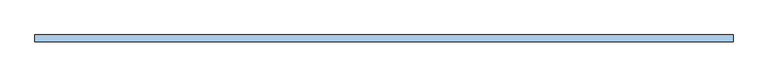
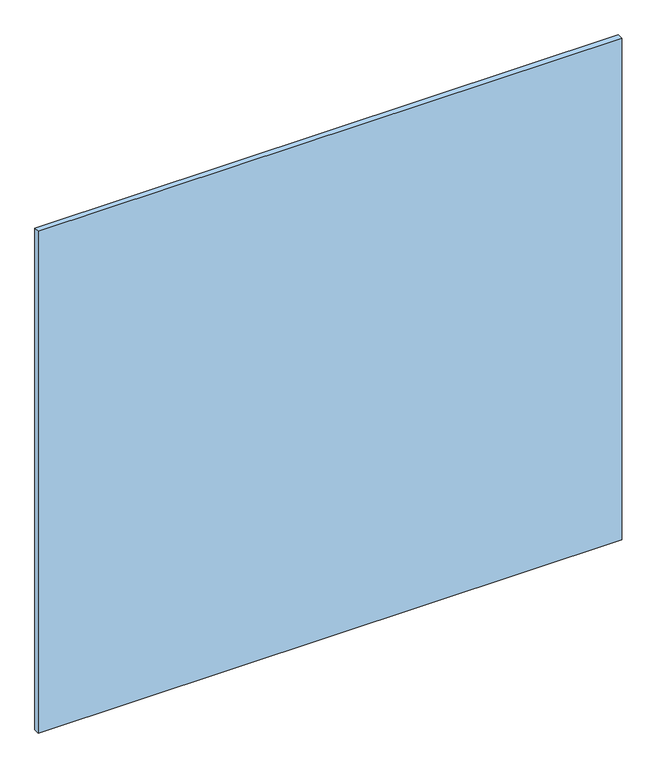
"""IFC4 building model written with IfcOpenShell, lengths in millimetres: window geometry, espejo biselado sin marco : ESP5-espejo biselado 110 x 101."""

from ifc_helpers import new_model, si_unit, origin, origin_with_axes, place, context, project, spatial, polyline, outline, extrude, source, transform, mapped, element, save


def window_334a38c3(model_context):
    return source(origin(), model_context, "Body", "SweptSolid", [
        extrude(outline(polyline([(-550.0, 19.0), (-550.0, 30.0), (550.0, 30.0), (550.0, 19.0), (-550.0, 19.0)])), origin_with_axes(), (0.0, 0.0, 1.0), 1000.0),
    ])


if __name__ == "__main__":
    model = new_model("IFC4")
    model_context = context("Model", 3, world=origin())
    ifc_project = project(units=[si_unit("LENGTHUNIT", "METRE", prefix="MILLI")], contexts=[model_context])
    site = spatial("IfcSite", under=ifc_project)
    building = spatial("IfcBuilding", under=site)
    placement = place(None, origin())
    window_shape = window_334a38c3(model_context)
    element("IfcWindow", 1, ObjectType="espejo biselado sin marco : ESP5-espejo biselado 110 x 101", at=placement, inside=building, context=model_context, shape_type="MappedRepresentation", body=[
        mapped(window_shape, transform((0.0, 0.0, 0.0), x_axis=(1.0, 0.0, 0.0), y_axis=(0.0, 1.0, 0.0), z_axis=(0.0, 0.0, 1.0))),
    ])
    save(model, "model.ifc")
